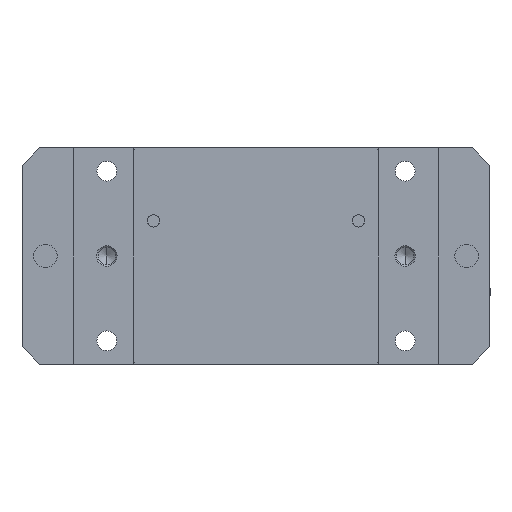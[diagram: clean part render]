
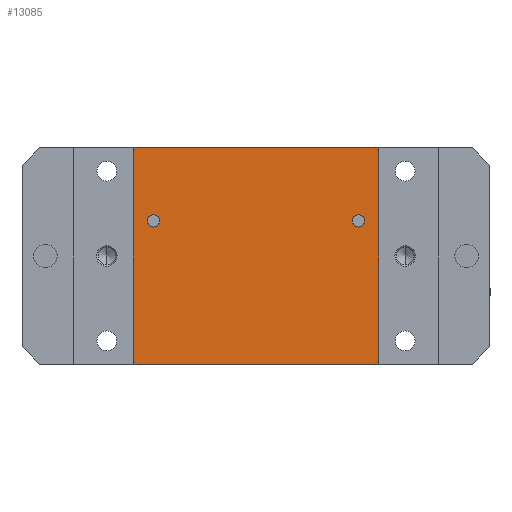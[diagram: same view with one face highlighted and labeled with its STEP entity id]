
A CAD part, front view. The second image highlights one B-rep face of the part: STEP entity #13085.
In plain terms, the highlighted planar face has unit normal (0, -1, 0).
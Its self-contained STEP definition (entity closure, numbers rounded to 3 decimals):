
#604 = CARTESIAN_POINT ( 'NONE',  ( 41., -30., 37. ) ) ;
#1777 = CARTESIAN_POINT ( 'NONE',  ( -42., -30., 37. ) ) ;
#2744 = FACE_BOUND ( 'NONE', #4102, .T. ) ;
#2893 = AXIS2_PLACEMENT_3D ( 'NONE', #4158, #30616, #8007 ) ;
#3976 = CARTESIAN_POINT ( 'NONE',  ( 41., -30., -37. ) ) ;
#4102 = EDGE_LOOP ( 'NONE', ( #7433, #10975 ) ) ;
#4158 = CARTESIAN_POINT ( 'NONE',  ( -42., -30., 37. ) ) ;
#4665 = LINE ( 'NONE', #13847, #44841 ) ;
#5307 = VECTOR ( 'NONE', #32038, 1000. ) ;
#5529 = EDGE_LOOP ( 'NONE', ( #8883, #15456 ) ) ;
#5760 = CARTESIAN_POINT ( 'NONE',  ( 42., -30., -36. ) ) ;
#6305 = CIRCLE ( 'NONE', #23805, 2.1 ) ;
#6537 = EDGE_CURVE ( 'NONE', #45365, #17689, #45905, .T. ) ;
#6931 = VECTOR ( 'NONE', #7380, 1000. ) ;
#7380 = DIRECTION ( 'NONE',  ( 1., 0., 0. ) ) ;
#7433 = ORIENTED_EDGE ( 'NONE', *, *, #44470, .T. ) ;
#7886 = VERTEX_POINT ( 'NONE', #34130 ) ;
#8007 = DIRECTION ( 'NONE',  ( 0., 0., 1. ) ) ;
#8363 = LINE ( 'NONE', #19139, #36146 ) ;
#8883 = ORIENTED_EDGE ( 'NONE', *, *, #37602, .T. ) ;
#9151 = DIRECTION ( 'NONE',  ( 0., 1., 0. ) ) ;
#9471 = CARTESIAN_POINT ( 'NONE',  ( -42., -30., 36. ) ) ;
#10480 = EDGE_CURVE ( 'NONE', #42460, #48693, #30032, .T. ) ;
#10975 = ORIENTED_EDGE ( 'NONE', *, *, #10480, .T. ) ;
#11094 = VERTEX_POINT ( 'NONE', #28864 ) ;
#13085 = ADVANCED_FACE ( 'NONE', ( #41798, #22892, #2744 ), #23020, .F. ) ;
#13847 = CARTESIAN_POINT ( 'NONE',  ( 42., -30., 37. ) ) ;
#14276 = CARTESIAN_POINT ( 'NONE',  ( -35., -30., 12. ) ) ;
#15456 = ORIENTED_EDGE ( 'NONE', *, *, #33218, .T. ) ;
#16779 = DIRECTION ( 'NONE',  ( 0., 1., 0. ) ) ;
#16971 = VECTOR ( 'NONE', #42231, 1000. ) ;
#17689 = VERTEX_POINT ( 'NONE', #26626 ) ;
#17880 = DIRECTION ( 'NONE',  ( 1., 0., 0. ) ) ;
#18084 = DIRECTION ( 'NONE',  ( 0., 0., -1. ) ) ;
#18158 = LINE ( 'NONE', #604, #16971 ) ;
#18446 = EDGE_LOOP ( 'NONE', ( #48538, #46201, #32123, #26634, #37137, #35592, #31211, #39686 ) ) ;
#19139 = CARTESIAN_POINT ( 'NONE',  ( -41., -30., -37. ) ) ;
#20225 = CARTESIAN_POINT ( 'NONE',  ( 35., -30., 12. ) ) ;
#20464 = CARTESIAN_POINT ( 'NONE',  ( 42., -30., 36. ) ) ;
#20557 = AXIS2_PLACEMENT_3D ( 'NONE', #20225, #46590, #24003 ) ;
#21604 = AXIS2_PLACEMENT_3D ( 'NONE', #39418, #16779, #43185 ) ;
#22309 = CARTESIAN_POINT ( 'NONE',  ( -42., -30., -37. ) ) ;
#22739 = EDGE_CURVE ( 'NONE', #39808, #37259, #25383, .T. ) ;
#22884 = CARTESIAN_POINT ( 'NONE',  ( -41., -30., -37. ) ) ;
#22892 = FACE_BOUND ( 'NONE', #5529, .T. ) ;
#23020 = PLANE ( 'NONE',  #2893 ) ;
#23463 = EDGE_CURVE ( 'NONE', #39808, #45365, #37805, .T. ) ;
#23805 = AXIS2_PLACEMENT_3D ( 'NONE', #14276, #40712, #18084 ) ;
#23893 = VERTEX_POINT ( 'NONE', #43091 ) ;
#24003 = DIRECTION ( 'NONE',  ( 0., 0., -1. ) ) ;
#24470 = EDGE_CURVE ( 'NONE', #23893, #43264, #28827, .T. ) ;
#25383 = LINE ( 'NONE', #1777, #5307 ) ;
#25953 = EDGE_CURVE ( 'NONE', #17689, #46041, #18158, .T. ) ;
#26626 = CARTESIAN_POINT ( 'NONE',  ( 41., -30., 37. ) ) ;
#26634 = ORIENTED_EDGE ( 'NONE', *, *, #6537, .F. ) ;
#27123 = LINE ( 'NONE', #22309, #46016 ) ;
#27791 = CIRCLE ( 'NONE', #20557, 2.1 ) ;
#28635 = CARTESIAN_POINT ( 'NONE',  ( -42., -30., 36. ) ) ;
#28827 = LINE ( 'NONE', #5760, #48935 ) ;
#28864 = CARTESIAN_POINT ( 'NONE',  ( 35., -30., 9.9 ) ) ;
#30032 = CIRCLE ( 'NONE', #48131, 2.1 ) ;
#30616 = DIRECTION ( 'NONE',  ( 0., 1., 0. ) ) ;
#31211 = ORIENTED_EDGE ( 'NONE', *, *, #35275, .F. ) ;
#31786 = CARTESIAN_POINT ( 'NONE',  ( -35., -30., 12. ) ) ;
#31991 = CARTESIAN_POINT ( 'NONE',  ( -42., -30., -36. ) ) ;
#32038 = DIRECTION ( 'NONE',  ( 0., 0., -1. ) ) ;
#32123 = ORIENTED_EDGE ( 'NONE', *, *, #25953, .F. ) ;
#32204 = DIRECTION ( 'NONE',  ( -0.707, 0., -0.707 ) ) ;
#33218 = EDGE_CURVE ( 'NONE', #7886, #11094, #47441, .T. ) ;
#33816 = CARTESIAN_POINT ( 'NONE',  ( -42., -30., 37. ) ) ;
#34130 = CARTESIAN_POINT ( 'NONE',  ( 35., -30., 14.1 ) ) ;
#35275 = EDGE_CURVE ( 'NONE', #46248, #37259, #8363, .T. ) ;
#35587 = DIRECTION ( 'NONE',  ( 0., 0., -1. ) ) ;
#35592 = ORIENTED_EDGE ( 'NONE', *, *, #22739, .T. ) ;
#36146 = VECTOR ( 'NONE', #37980, 1000. ) ;
#37137 = ORIENTED_EDGE ( 'NONE', *, *, #23463, .F. ) ;
#37259 = VERTEX_POINT ( 'NONE', #31991 ) ;
#37602 = EDGE_CURVE ( 'NONE', #11094, #7886, #27791, .T. ) ;
#37805 = LINE ( 'NONE', #9471, #47797 ) ;
#37826 = CARTESIAN_POINT ( 'NONE',  ( -41., -30., 37. ) ) ;
#37980 = DIRECTION ( 'NONE',  ( -0.707, 0., 0.707 ) ) ;
#38970 = EDGE_CURVE ( 'NONE', #46248, #43264, #27123, .T. ) ;
#39418 = CARTESIAN_POINT ( 'NONE',  ( 35., -30., 12. ) ) ;
#39686 = ORIENTED_EDGE ( 'NONE', *, *, #38970, .T. ) ;
#39808 = VERTEX_POINT ( 'NONE', #28635 ) ;
#39811 = DIRECTION ( 'NONE',  ( 0., 0., 1. ) ) ;
#40677 = EDGE_CURVE ( 'NONE', #23893, #46041, #4665, .T. ) ;
#40712 = DIRECTION ( 'NONE',  ( 0., 1., 0. ) ) ;
#41798 = FACE_OUTER_BOUND ( 'NONE', #18446, .T. ) ;
#41959 = CARTESIAN_POINT ( 'NONE',  ( -35., -30., 14.1 ) ) ;
#42231 = DIRECTION ( 'NONE',  ( 0.707, 0., -0.707 ) ) ;
#42460 = VERTEX_POINT ( 'NONE', #41959 ) ;
#43091 = CARTESIAN_POINT ( 'NONE',  ( 42., -30., -36. ) ) ;
#43185 = DIRECTION ( 'NONE',  ( 0., 0., -1. ) ) ;
#43264 = VERTEX_POINT ( 'NONE', #3976 ) ;
#43469 = DIRECTION ( 'NONE',  ( 0.707, 0., 0.707 ) ) ;
#44470 = EDGE_CURVE ( 'NONE', #48693, #42460, #6305, .T. ) ;
#44841 = VECTOR ( 'NONE', #39811, 1000. ) ;
#45365 = VERTEX_POINT ( 'NONE', #37826 ) ;
#45905 = LINE ( 'NONE', #33816, #6931 ) ;
#46016 = VECTOR ( 'NONE', #17880, 1000. ) ;
#46041 = VERTEX_POINT ( 'NONE', #20464 ) ;
#46201 = ORIENTED_EDGE ( 'NONE', *, *, #40677, .T. ) ;
#46248 = VERTEX_POINT ( 'NONE', #22884 ) ;
#46590 = DIRECTION ( 'NONE',  ( 0., 1., 0. ) ) ;
#47441 = CIRCLE ( 'NONE', #21604, 2.1 ) ;
#47797 = VECTOR ( 'NONE', #43469, 1000. ) ;
#47998 = CARTESIAN_POINT ( 'NONE',  ( -35., -30., 9.9 ) ) ;
#48131 = AXIS2_PLACEMENT_3D ( 'NONE', #31786, #9151, #35587 ) ;
#48538 = ORIENTED_EDGE ( 'NONE', *, *, #24470, .F. ) ;
#48693 = VERTEX_POINT ( 'NONE', #47998 ) ;
#48935 = VECTOR ( 'NONE', #32204, 1000. ) ;
